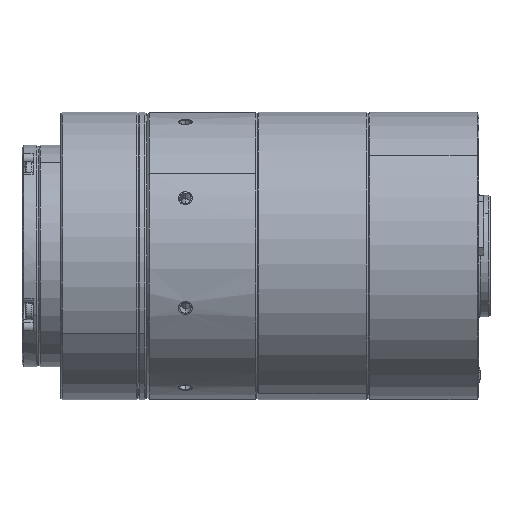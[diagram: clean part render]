
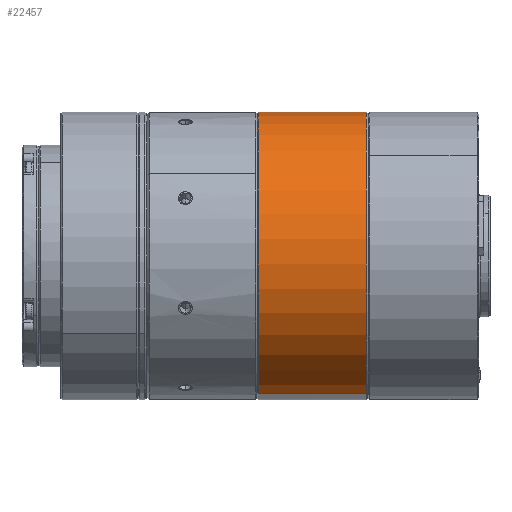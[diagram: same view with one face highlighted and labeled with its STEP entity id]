
A CAD part, left-side view. The second image highlights one B-rep face of the part: STEP entity #22457.
In plain terms, the highlighted cylindrical face has radius 26 mm (diameter 52 mm), a partial arc.
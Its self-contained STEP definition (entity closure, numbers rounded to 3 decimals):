
#205 = CARTESIAN_POINT ( 'NONE',  ( -7.525, -39.2, -24.887 ) ) ;
#239 = VECTOR ( 'NONE', #3980, 1000. ) ;
#1664 = EDGE_CURVE ( 'NONE', #35854, #43451, #36158, .T. ) ;
#2236 = CARTESIAN_POINT ( 'NONE',  ( 0., -23., 0. ) ) ;
#3980 = DIRECTION ( 'NONE',  ( 0., -1., 0. ) ) ;
#4587 = ORIENTED_EDGE ( 'NONE', *, *, #29660, .T. ) ;
#4653 = DIRECTION ( 'NONE',  ( -0.289, 0., -0.957 ) ) ;
#5066 = CARTESIAN_POINT ( 'NONE',  ( 0., -39.2, 0. ) ) ;
#7298 = LINE ( 'NONE', #38178, #239 ) ;
#7431 = ORIENTED_EDGE ( 'NONE', *, *, #18532, .F. ) ;
#8233 = ORIENTED_EDGE ( 'NONE', *, *, #23799, .T. ) ;
#8824 = DIRECTION ( 'NONE',  ( 0.289, 0., 0.957 ) ) ;
#9895 = AXIS2_PLACEMENT_3D ( 'NONE', #21989, #29066, #8824 ) ;
#14077 = VERTEX_POINT ( 'NONE', #205 ) ;
#14767 = CARTESIAN_POINT ( 'NONE',  ( -7.525, -19.7, -24.887 ) ) ;
#16095 = CARTESIAN_POINT ( 'NONE',  ( 7.525, -19.7, 24.887 ) ) ;
#16419 = LINE ( 'NONE', #33323, #18543 ) ;
#18051 = CYLINDRICAL_SURFACE ( 'NONE', #21137, 26. ) ;
#18532 = EDGE_CURVE ( 'NONE', #35854, #28162, #16419, .T. ) ;
#18543 = VECTOR ( 'NONE', #39532, 1000. ) ;
#21137 = AXIS2_PLACEMENT_3D ( 'NONE', #2236, #32271, #42897 ) ;
#21303 = AXIS2_PLACEMENT_3D ( 'NONE', #5066, #38604, #4653 ) ;
#21989 = CARTESIAN_POINT ( 'NONE',  ( 0., -19.7, 0. ) ) ;
#22457 = ADVANCED_FACE ( 'NONE', ( #31403 ), #18051, .T. ) ;
#23799 = EDGE_CURVE ( 'NONE', #43451, #14077, #7298, .T. ) ;
#26399 = CARTESIAN_POINT ( 'NONE',  ( 7.525, -39.2, 24.887 ) ) ;
#28162 = VERTEX_POINT ( 'NONE', #26399 ) ;
#28848 = ORIENTED_EDGE ( 'NONE', *, *, #1664, .T. ) ;
#29066 = DIRECTION ( 'NONE',  ( 0., -1., 0. ) ) ;
#29087 = CIRCLE ( 'NONE', #21303, 26. ) ;
#29660 = EDGE_CURVE ( 'NONE', #14077, #28162, #29087, .T. ) ;
#31403 = FACE_OUTER_BOUND ( 'NONE', #32360, .T. ) ;
#32271 = DIRECTION ( 'NONE',  ( 0., -1., 0. ) ) ;
#32360 = EDGE_LOOP ( 'NONE', ( #7431, #28848, #8233, #4587 ) ) ;
#33323 = CARTESIAN_POINT ( 'NONE',  ( 7.525, -23., 24.887 ) ) ;
#35854 = VERTEX_POINT ( 'NONE', #16095 ) ;
#36158 = CIRCLE ( 'NONE', #9895, 26. ) ;
#38178 = CARTESIAN_POINT ( 'NONE',  ( -7.525, -23., -24.887 ) ) ;
#38604 = DIRECTION ( 'NONE',  ( 0., 1., 0. ) ) ;
#39532 = DIRECTION ( 'NONE',  ( 0., -1., 0. ) ) ;
#42897 = DIRECTION ( 'NONE',  ( -0.289, 0., -0.957 ) ) ;
#43451 = VERTEX_POINT ( 'NONE', #14767 ) ;
